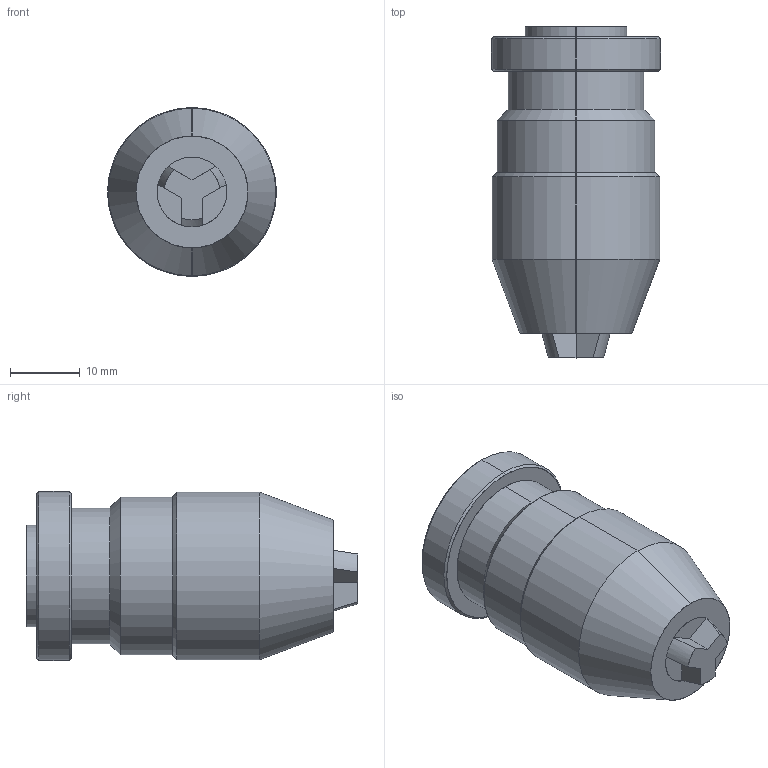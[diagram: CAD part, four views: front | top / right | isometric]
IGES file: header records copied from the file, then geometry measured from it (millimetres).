
Start section: SolidWorks IGES file using analytic representation for surfaces
Global section: file name: R:\Inventor\Kundmodeller Solidworks\Chuckar\041J004004 Precision chuck Albrecht, B10, 0-3 mm.IGS; native system: SolidWorks 2008; preprocessor: SolidWorks 2008; author: Johan; date: 090903.160108; units: millimetre
Bounding box: 24.2 x 47.5 x 24.2 mm (x, y, z)
Surface area: 4572 mm2 (no closed solid volume)
Topology: 0 solids, 0 shells, 46 faces, 614 edges, 614 vertices
Faces by surface type: revolution 29, bspline 17
